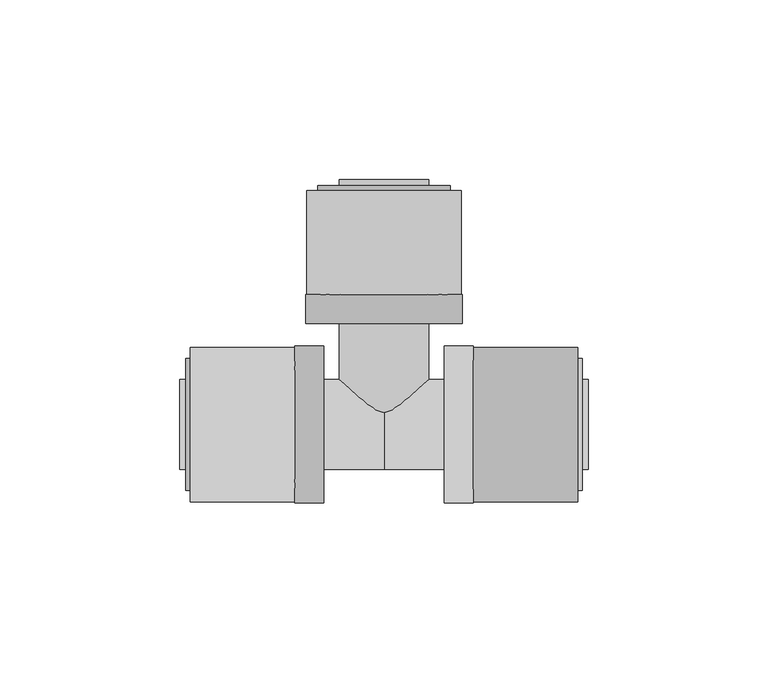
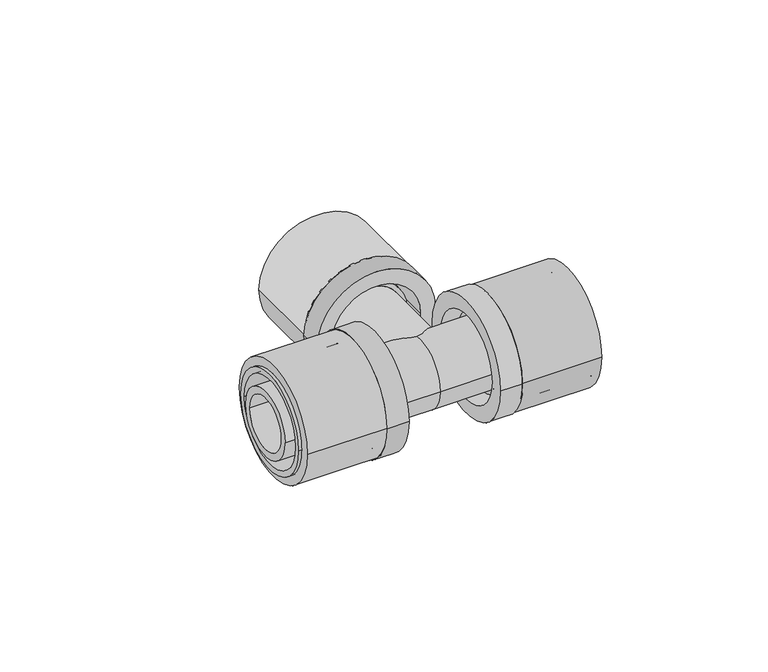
"""IFC4 building model written with IfcOpenShell, lengths in millimetres: pipe fitting geometry, FASTLOC_T-piece_EX+ : FSL T-Piece EX+ AT."""

from ifc_helpers import new_model, si_unit, point, frame, origin, origin_2d, place, context, project, spatial, polyline, circle_curve, trimmed, segment, composite_curve, outline, extrude, source, transform, mapped, element, save
from ifc_brep_helpers import plane_surface, cylinder_surface, revolved_surface, advanced_brep


def pipe_fitting_7921c085(model_context):
    return source(origin(), model_context, "Body", "SolidModel", [
        extrude(outline(composite_curve([segment(trimmed(circle_curve(origin_2d(), 21.5), [point((-21.5, 0.0))], [point((21.5, 0.0))], False, "CARTESIAN"), True, "CONTINUOUS"), segment(trimmed(circle_curve(origin_2d(), 21.5), [point((21.5, 0.0))], [point((-21.5, 0.0))], False, "CARTESIAN"), True, "CONTINUOUS")], self_intersect=False), holes=[composite_curve([segment(trimmed(circle_curve(origin_2d(), 16.85), [point((-16.85, 0.0))], [point((16.85, 0.0))], True, "CARTESIAN"), True, "CONTINUOUS"), segment(trimmed(circle_curve(origin_2d(), 16.85), [point((16.85, 0.0))], [point((-16.85, 0.0))], True, "CARTESIAN"), True, "CONTINUOUS")], self_intersect=False)]), frame((24.8, 0.0, 0.0), z_axis=(1.0, 0.0, 0.0), x_axis=(0.0, 1.0, 0.0)), (0.0, 0.0, 1.0), 29.0),
        advanced_brep(
        [(24.8, 21.8, 0.0), (24.8, -21.8, 0.0), (16.8, -21.8, 0.0), (16.8, 21.8, 0.0), (55.1, 18.35, 0.0), (55.1, -18.35, 0.0), (24.8, -18.35, 0.0), (24.8, 18.35, 0.0), (16.8, 16.2, 0.0), (16.8, -16.2, 0.0), (55.1, -16.2, 0.0), (55.1, 16.2, 0.0)],
        [
            (0, 1, circle_curve(frame((24.8, 0.0, 0.0), z_axis=(-1.0, 0.0, 0.0), x_axis=(0.0, -1.0, 0.0)), 21.8)),
            (1, 2),
            (2, 3, circle_curve(frame((16.8, 0.0, 0.0), z_axis=(1.0, 0.0, 0.0), x_axis=(0.0, -1.0, 0.0)), 21.8)),
            (3, 0),
            (4, 5, circle_curve(frame((55.1, 0.0, 0.0), z_axis=(-1.0, 0.0, 0.0), x_axis=(0.0, -1.0, 0.0)), 18.35)),
            (5, 6),
            (6, 7, circle_curve(frame((24.8, 0.0, 0.0), z_axis=(1.0, 0.0, 0.0), x_axis=(0.0, -1.0, 0.0)), 18.35)),
            (7, 4),
            (8, 9, circle_curve(frame((16.8, 0.0, 0.0), z_axis=(-1.0, 0.0, 0.0), x_axis=(0.0, -1.0, 0.0)), 16.2)),
            (9, 10),
            (10, 11, circle_curve(frame((55.1, 0.0, 0.0), z_axis=(1.0, 0.0, 0.0), x_axis=(0.0, -1.0, 0.0)), 16.2)),
            (11, 8),
            (1, 0, circle_curve(frame((24.8, 0.0, 0.0), z_axis=(-1.0, 0.0, 0.0), x_axis=(0.0, 1.0, 0.0)), 21.8)),
            (3, 2, circle_curve(frame((16.8, 0.0, 0.0), z_axis=(1.0, 0.0, 0.0), x_axis=(0.0, 1.0, 0.0)), 21.8)),
            (6, 7, circle_curve(frame((24.8, 0.0, 0.0), z_axis=(-1.0, 0.0, 0.0), x_axis=(0.0, 1.0, 0.0)), 18.35)),
            (5, 4, circle_curve(frame((55.1, 0.0, 0.0), z_axis=(-1.0, 0.0, 0.0), x_axis=(0.0, 1.0, 0.0)), 18.35)),
            (10, 11, circle_curve(frame((55.1, 0.0, 0.0), z_axis=(-1.0, 0.0, 0.0), x_axis=(0.0, 1.0, 0.0)), 16.2)),
            (9, 8, circle_curve(frame((16.8, 0.0, 0.0), z_axis=(-1.0, 0.0, 0.0), x_axis=(0.0, 1.0, 0.0)), 16.2)),
        ],
        [
            cylinder_surface(frame((16.8, 0.0, 0.0), z_axis=(1.0, 0.0, 0.0), x_axis=(0.0, -1.0, 0.0)), 21.8),
            cylinder_surface(frame((16.8, 0.0, 0.0), z_axis=(1.0, 0.0, 0.0), x_axis=(0.0, -1.0, 0.0)), 18.35),
            revolved_surface(polyline([(55.099999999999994, -16.2, 0.0), (16.8, -16.2, 0.0)]), (16.8, 0.0, 0.0), (1.0, 0.0, 0.0)),
            cylinder_surface(frame((16.8, 0.0, 0.0), z_axis=(1.0, 0.0, 0.0), x_axis=(0.0, 1.0, 0.0)), 21.8),
            plane_surface(frame((24.8, 0.0, 0.0), z_axis=(1.0, 0.0, 0.0), x_axis=(0.0, 1.0, 0.0))),
            cylinder_surface(frame((16.8, 0.0, 0.0), z_axis=(1.0, 0.0, 0.0), x_axis=(0.0, 1.0, 0.0)), 18.35),
            plane_surface(frame((55.1, 0.0, 0.0), z_axis=(1.0, 0.0, 0.0), x_axis=(0.0, 1.0, 0.0))),
            revolved_surface(polyline([(55.099999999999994, 16.2, 0.0), (16.8, 16.2, 0.0)]), (16.8, 0.0, 0.0), (1.0, 0.0, 0.0)),
            plane_surface(frame((16.8, 0.0, 0.0), z_axis=(-1.0, 0.0, 0.0), x_axis=(0.0, 1.0, 0.0))),
        ],
        [
            (0, [[1, 2, 3, 4]]),
            (1, [[5, 6, 7, 8]]),
            (2, [[9, 10, 11, 12]]),
            (3, [[13, -4, 14, -2]]),
            (4, [[-13, -1], [15, -7]]),
            (5, [[16, -8, -15, -6]]),
            (6, [[-16, -5], [17, -11]]),
            (7, [[18, -12, -17, -10]]),
            (8, [[-14, -3], [-18, -9]]),
        ],
    ),
        extrude(outline(composite_curve([segment(trimmed(circle_curve(origin_2d(), 21.5), [point((21.5, 0.0))], [point((-21.5, 0.0))], False, "CARTESIAN"), True, "CONTINUOUS"), segment(trimmed(circle_curve(origin_2d(), 21.5), [point((-21.5, 0.0))], [point((21.5, 0.0))], False, "CARTESIAN"), True, "CONTINUOUS")], self_intersect=False), holes=[composite_curve([segment(trimmed(circle_curve(origin_2d(), 16.85), [point((16.85, 0.0))], [point((-16.85, 0.0))], True, "CARTESIAN"), True, "CONTINUOUS"), segment(trimmed(circle_curve(origin_2d(), 16.85), [point((-16.85, 0.0))], [point((16.85, 0.0))], True, "CARTESIAN"), True, "CONTINUOUS")], self_intersect=False)]), frame((-53.8, 0.0, 0.0), z_axis=(1.0, 0.0, 0.0), x_axis=(0.0, 1.0, 0.0)), (0.0, 0.0, 1.0), 29.0),
        advanced_brep(
        [(-24.8, -21.8, 0.0), (-24.8, 21.8, 0.0), (-16.8, 21.8, 0.0), (-16.8, -21.8, 0.0), (-55.1, -18.35, 0.0), (-55.1, 18.35, 0.0), (-24.8, 18.35, 0.0), (-24.8, -18.35, 0.0), (-16.8, -16.2, 0.0), (-16.8, 16.2, 0.0), (-55.1, 16.2, 0.0), (-55.1, -16.2, 0.0)],
        [
            (0, 1, circle_curve(frame((-24.8, 0.0, 0.0), z_axis=(1.0, 0.0, 0.0), x_axis=(0.0, 1.0, 0.0)), 21.8)),
            (1, 2),
            (2, 3, circle_curve(frame((-16.8, 0.0, 0.0), z_axis=(-1.0, 0.0, 0.0), x_axis=(0.0, 1.0, 0.0)), 21.8)),
            (3, 0),
            (4, 5, circle_curve(frame((-55.1, 0.0, 0.0), z_axis=(1.0, 0.0, 0.0), x_axis=(0.0, 1.0, 0.0)), 18.35)),
            (5, 6),
            (6, 7, circle_curve(frame((-24.8, 0.0, 0.0), z_axis=(-1.0, 0.0, 0.0), x_axis=(0.0, 1.0, 0.0)), 18.35)),
            (7, 4),
            (8, 9, circle_curve(frame((-16.8, 0.0, 0.0), z_axis=(1.0, 0.0, 0.0), x_axis=(0.0, 1.0, 0.0)), 16.2)),
            (9, 10),
            (10, 11, circle_curve(frame((-55.1, 0.0, 0.0), z_axis=(-1.0, 0.0, 0.0), x_axis=(0.0, 1.0, 0.0)), 16.2)),
            (11, 8),
            (1, 0, circle_curve(frame((-24.8, 0.0, 0.0), z_axis=(1.0, 0.0, 0.0), x_axis=(0.0, -1.0, 0.0)), 21.8)),
            (3, 2, circle_curve(frame((-16.8, 0.0, 0.0), z_axis=(-1.0, 0.0, 0.0), x_axis=(0.0, -1.0, 0.0)), 21.8)),
            (6, 7, circle_curve(frame((-24.8, 0.0, 0.0), z_axis=(1.0, 0.0, 0.0), x_axis=(0.0, -1.0, 0.0)), 18.35)),
            (5, 4, circle_curve(frame((-55.1, 0.0, 0.0), z_axis=(1.0, 0.0, 0.0), x_axis=(0.0, -1.0, 0.0)), 18.35)),
            (10, 11, circle_curve(frame((-55.1, 0.0, 0.0), z_axis=(1.0, 0.0, 0.0), x_axis=(0.0, -1.0, 0.0)), 16.2)),
            (9, 8, circle_curve(frame((-16.8, 0.0, 0.0), z_axis=(1.0, 0.0, 0.0), x_axis=(0.0, -1.0, 0.0)), 16.2)),
        ],
        [
            cylinder_surface(frame((-16.8, 0.0, 0.0), z_axis=(-1.0, 0.0, 0.0), x_axis=(0.0, 1.0, 0.0)), 21.8),
            cylinder_surface(frame((-16.8, 0.0, 0.0), z_axis=(-1.0, 0.0, 0.0), x_axis=(0.0, 1.0, 0.0)), 18.35),
            revolved_surface(polyline([(-55.099999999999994, 16.2, 0.0), (-16.8, 16.2, 0.0)]), (-16.8, 0.0, 0.0), (-1.0, 0.0, 0.0)),
            cylinder_surface(frame((-16.8, 0.0, 0.0), z_axis=(-1.0, 0.0, 0.0), x_axis=(0.0, -1.0, 0.0)), 21.8),
            plane_surface(frame((-24.8, 0.0, 0.0), z_axis=(-1.0, 0.0, 0.0), x_axis=(0.0, -1.0, 0.0))),
            cylinder_surface(frame((-16.8, 0.0, 0.0), z_axis=(-1.0, 0.0, 0.0), x_axis=(0.0, -1.0, 0.0)), 18.35),
            plane_surface(frame((-55.1, 0.0, 0.0), z_axis=(-1.0, 0.0, 0.0), x_axis=(0.0, -1.0, 0.0))),
            revolved_surface(polyline([(-55.099999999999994, -16.2, 0.0), (-16.8, -16.2, 0.0)]), (-16.8, 0.0, 0.0), (-1.0, 0.0, 0.0)),
            plane_surface(frame((-16.8, 0.0, 0.0), z_axis=(1.0, 0.0, 0.0), x_axis=(0.0, -1.0, 0.0))),
        ],
        [
            (0, [[1, 2, 3, 4]]),
            (1, [[5, 6, 7, 8]]),
            (2, [[9, 10, 11, 12]]),
            (3, [[13, -4, 14, -2]]),
            (4, [[-13, -1], [15, -7]]),
            (5, [[16, -8, -15, -6]]),
            (6, [[-16, -5], [17, -11]]),
            (7, [[18, -12, -17, -10]]),
            (8, [[-14, -3], [-18, -9]]),
        ],
    ),
        extrude(outline(composite_curve([segment(trimmed(circle_curve(origin_2d(), 21.5), [point((0.0, 21.5))], [point((0.0, -21.5))], False, "CARTESIAN"), True, "CONTINUOUS"), segment(trimmed(circle_curve(origin_2d(), 21.5), [point((0.0, -21.5))], [point((0.0, 21.5))], False, "CARTESIAN"), True, "CONTINUOUS")], self_intersect=False), holes=[composite_curve([segment(trimmed(circle_curve(origin_2d(), 16.85), [point((0.0, 16.85))], [point((0.0, -16.85))], True, "CARTESIAN"), True, "CONTINUOUS"), segment(trimmed(circle_curve(origin_2d(), 16.85), [point((0.0, -16.85))], [point((0.0, 16.85))], True, "CARTESIAN"), True, "CONTINUOUS")], self_intersect=False)]), frame((0.0, 36.1, 0.0), z_axis=(0.0, 1.0, 0.0), x_axis=(0.0, 0.0, 1.0)), (0.0, 0.0, 1.0), 29.0),
        advanced_brep(
        [(-21.8, 36.1, 0.0), (21.8, 36.1, 0.0), (21.8, 28.1, 0.0), (-21.8, 28.1, 0.0), (-18.35, 66.4, 0.0), (18.35, 66.4, 0.0), (18.35, 36.1, 0.0), (-18.35, 36.1, 0.0), (-16.2, 28.1, 0.0), (16.2, 28.1, 0.0), (16.2, 66.4, 0.0), (-16.2, 66.4, 0.0)],
        [
            (0, 1, circle_curve(frame((0.0, 36.1, 0.0), z_axis=(0.0, -1.0, 0.0), x_axis=(1.0, 0.0, 0.0)), 21.8)),
            (1, 2),
            (2, 3, circle_curve(frame((0.0, 28.1, 0.0), z_axis=(0.0, 1.0, 0.0), x_axis=(1.0, 0.0, 0.0)), 21.8)),
            (3, 0),
            (4, 5, circle_curve(frame((0.0, 66.4, 0.0), z_axis=(0.0, -1.0, 0.0), x_axis=(1.0, 0.0, 0.0)), 18.35)),
            (5, 6),
            (6, 7, circle_curve(frame((0.0, 36.1, 0.0), z_axis=(0.0, 1.0, 0.0), x_axis=(1.0, 0.0, 0.0)), 18.35)),
            (7, 4),
            (8, 9, circle_curve(frame((0.0, 28.1, 0.0), z_axis=(0.0, -1.0, 0.0), x_axis=(1.0, 0.0, 0.0)), 16.2)),
            (9, 10),
            (10, 11, circle_curve(frame((0.0, 66.4, 0.0), z_axis=(0.0, 1.0, 0.0), x_axis=(1.0, 0.0, 0.0)), 16.2)),
            (11, 8),
            (1, 0, circle_curve(frame((0.0, 36.1, 0.0), z_axis=(0.0, -1.0, 0.0), x_axis=(-1.0, 0.0, 0.0)), 21.8)),
            (3, 2, circle_curve(frame((0.0, 28.1, 0.0), z_axis=(0.0, 1.0, 0.0), x_axis=(-1.0, 0.0, 0.0)), 21.8)),
            (6, 7, circle_curve(frame((0.0, 36.1, 0.0), z_axis=(0.0, -1.0, 0.0), x_axis=(-1.0, 0.0, 0.0)), 18.35)),
            (5, 4, circle_curve(frame((0.0, 66.4, 0.0), z_axis=(0.0, -1.0, 0.0), x_axis=(-1.0, 0.0, 0.0)), 18.35)),
            (10, 11, circle_curve(frame((0.0, 66.4, 0.0), z_axis=(0.0, -1.0, 0.0), x_axis=(-1.0, 0.0, 0.0)), 16.2)),
            (9, 8, circle_curve(frame((0.0, 28.1, 0.0), z_axis=(0.0, -1.0, 0.0), x_axis=(-1.0, 0.0, 0.0)), 16.2)),
        ],
        [
            cylinder_surface(frame((0.0, 28.1, 0.0), z_axis=(0.0, 1.0, 0.0), x_axis=(1.0, 0.0, 0.0)), 21.8),
            cylinder_surface(frame((0.0, 28.1, 0.0), z_axis=(0.0, 1.0, 0.0), x_axis=(1.0, 0.0, 0.0)), 18.35),
            revolved_surface(polyline([(16.2, 66.4, 0.0), (16.2, 28.1, 0.0)]), (0.0, 28.1, 0.0), (0.0, 1.0, 0.0)),
            cylinder_surface(frame((0.0, 28.1, 0.0), z_axis=(0.0, 1.0, 0.0), x_axis=(-1.0, 0.0, 0.0)), 21.8),
            plane_surface(frame((0.0, 36.1, 0.0), z_axis=(0.0, 1.0, 0.0), x_axis=(-1.0, 0.0, 0.0))),
            cylinder_surface(frame((0.0, 28.1, 0.0), z_axis=(0.0, 1.0, 0.0), x_axis=(-1.0, 0.0, 0.0)), 18.35),
            plane_surface(frame((0.0, 66.4, 0.0), z_axis=(0.0, 1.0, 0.0), x_axis=(-1.0, 0.0, 0.0))),
            revolved_surface(polyline([(-16.2, 66.4, 0.0), (-16.2, 28.1, 0.0)]), (0.0, 28.1, 0.0), (0.0, 1.0, 0.0)),
            plane_surface(frame((0.0, 28.1, 0.0), z_axis=(0.0, -1.0, 0.0), x_axis=(-1.0, 0.0, 0.0))),
        ],
        [
            (0, [[1, 2, 3, 4]]),
            (1, [[5, 6, 7, 8]]),
            (2, [[9, 10, 11, 12]]),
            (3, [[13, -4, 14, -2]]),
            (4, [[-13, -1], [15, -7]]),
            (5, [[16, -8, -15, -6]]),
            (6, [[-16, -5], [17, -11]]),
            (7, [[18, -12, -17, -10]]),
            (8, [[-14, -3], [-18, -9]]),
        ],
    ),
        advanced_brep(
        [(0.0, 12.5, 0.0), (0.0, -12.5, 0.0), (-21.8, -12.5, 0.0), (-21.8, 12.5, 0.0), (21.8, 12.5, 0.0), (21.8, -12.5, 0.0), (24.8, 14.1, 0.0), (24.8, -14.1, 0.0), (21.8, -14.1, 0.0), (21.8, 14.1, 0.0), (56.75, 12.5, 0.0), (56.75, -12.5, 0.0), (24.8, -12.5, 0.0), (24.8, 12.5, 0.0), (-56.75, 9.85, 0.0), (-56.75, -9.85, 0.0), (56.75, -9.85, 0.0), (56.75, 9.85, 0.0), (-24.8, 12.5, 0.0), (-24.8, -12.5, 0.0), (-56.75, -12.5, 0.0), (-56.75, 12.5, 0.0), (-21.8, 14.1, 0.0), (-21.8, -14.1, 0.0), (-24.8, -14.1, 0.0), (-24.8, 14.1, 0.0)],
        [
            (0, 1, circle_curve(frame((0.0, 0.0, 0.0), z_axis=(-1.0, 0.0, 0.0), x_axis=(0.0, -1.0, 0.0)), 12.5)),
            (1, 2),
            (2, 3, circle_curve(frame((-21.8, 0.0, 0.0), z_axis=(1.0, 0.0, 0.0), x_axis=(0.0, -1.0, 0.0)), 12.5)),
            (3, 0),
            (4, 5, circle_curve(frame((21.8, 0.0, 0.0), z_axis=(-1.0, 0.0, 0.0), x_axis=(0.0, -1.0, 0.0)), 12.5)),
            (5, 1),
            (0, 4),
            (6, 7, circle_curve(frame((24.8, 0.0, 0.0), z_axis=(-1.0, 0.0, 0.0), x_axis=(0.0, -1.0, 0.0)), 14.1)),
            (7, 8),
            (8, 9, circle_curve(frame((21.8, 0.0, 0.0), z_axis=(1.0, 0.0, 0.0), x_axis=(0.0, -1.0, 0.0)), 14.1)),
            (9, 6),
            (10, 11, circle_curve(frame((56.75, 0.0, 0.0), z_axis=(-1.0, 0.0, 0.0), x_axis=(0.0, -1.0, 0.0)), 12.5)),
            (11, 12),
            (12, 13, circle_curve(frame((24.8, 0.0, 0.0), z_axis=(1.0, 0.0, 0.0), x_axis=(0.0, -1.0, 0.0)), 12.5)),
            (13, 10),
            (14, 15, circle_curve(frame((-56.75, 0.0, 0.0), z_axis=(-1.0, 0.0, 0.0), x_axis=(0.0, -1.0, 0.0)), 9.85)),
            (15, 16),
            (16, 17, circle_curve(frame((56.75, 0.0, 0.0), z_axis=(1.0, 0.0, 0.0), x_axis=(0.0, -1.0, 0.0)), 9.85)),
            (17, 14),
            (18, 19, circle_curve(frame((-24.8, 0.0, 0.0), z_axis=(-1.0, 0.0, 0.0), x_axis=(0.0, -1.0, 0.0)), 12.5)),
            (19, 20),
            (20, 21, circle_curve(frame((-56.75, 0.0, 0.0), z_axis=(1.0, 0.0, 0.0), x_axis=(0.0, -1.0, 0.0)), 12.5)),
            (21, 18),
            (22, 23, circle_curve(frame((-21.8, 0.0, 0.0), z_axis=(-1.0, 0.0, 0.0), x_axis=(0.0, -1.0, 0.0)), 14.1)),
            (23, 24),
            (24, 25, circle_curve(frame((-24.8, 0.0, 0.0), z_axis=(1.0, 0.0, 0.0), x_axis=(0.0, -1.0, 0.0)), 14.1)),
            (25, 22),
            (22, 23, circle_curve(frame((-21.8, 0.0, 0.0), z_axis=(1.0, 0.0, 0.0), x_axis=(0.0, 1.0, 0.0)), 14.1)),
            (2, 3, circle_curve(frame((-21.8, 0.0, 0.0), z_axis=(-1.0, 0.0, 0.0), x_axis=(0.0, 1.0, 0.0)), 12.5)),
            (1, 0, circle_curve(frame((0.0, 0.0, 0.0), z_axis=(-1.0, 0.0, 0.0), x_axis=(0.0, 1.0, 0.0)), 12.5)),
            (5, 4, circle_curve(frame((21.8, 0.0, 0.0), z_axis=(-1.0, 0.0, 0.0), x_axis=(0.0, 1.0, 0.0)), 12.5)),
            (8, 9, circle_curve(frame((21.8, 0.0, 0.0), z_axis=(-1.0, 0.0, 0.0), x_axis=(0.0, 1.0, 0.0)), 14.1)),
            (7, 6, circle_curve(frame((24.8, 0.0, 0.0), z_axis=(-1.0, 0.0, 0.0), x_axis=(0.0, 1.0, 0.0)), 14.1)),
            (12, 13, circle_curve(frame((24.8, 0.0, 0.0), z_axis=(-1.0, 0.0, 0.0), x_axis=(0.0, 1.0, 0.0)), 12.5)),
            (11, 10, circle_curve(frame((56.75, 0.0, 0.0), z_axis=(-1.0, 0.0, 0.0), x_axis=(0.0, 1.0, 0.0)), 12.5)),
            (16, 17, circle_curve(frame((56.75, 0.0, 0.0), z_axis=(-1.0, 0.0, 0.0), x_axis=(0.0, 1.0, 0.0)), 9.85)),
            (15, 14, circle_curve(frame((-56.75, 0.0, 0.0), z_axis=(-1.0, 0.0, 0.0), x_axis=(0.0, 1.0, 0.0)), 9.85)),
            (20, 21, circle_curve(frame((-56.75, 0.0, 0.0), z_axis=(-1.0, 0.0, 0.0), x_axis=(0.0, 1.0, 0.0)), 12.5)),
            (19, 18, circle_curve(frame((-24.8, 0.0, 0.0), z_axis=(-1.0, 0.0, 0.0), x_axis=(0.0, 1.0, 0.0)), 12.5)),
            (24, 25, circle_curve(frame((-24.8, 0.0, 0.0), z_axis=(-1.0, 0.0, 0.0), x_axis=(0.0, 1.0, 0.0)), 14.1)),
        ],
        [
            cylinder_surface(frame((0.0, 0.0, 0.0), z_axis=(1.0, 0.0, 0.0), x_axis=(0.0, -1.0, 0.0)), 12.5),
            cylinder_surface(frame((0.0, 0.0, 0.0), z_axis=(1.0, 0.0, 0.0), x_axis=(0.0, -1.0, 0.0)), 14.1),
            revolved_surface(polyline([(56.75, -9.85, 0.0), (-56.75, -9.85, 0.0)]), (0.0, 0.0, 0.0), (1.0, 0.0, 0.0)),
            plane_surface(frame((-21.8, 0.0, 0.0), z_axis=(1.0, 0.0, 0.0), x_axis=(0.0, 1.0, 0.0))),
            cylinder_surface(frame((0.0, 0.0, 0.0), z_axis=(1.0, 0.0, 0.0), x_axis=(0.0, 1.0, 0.0)), 12.5),
            plane_surface(frame((21.8, 0.0, 0.0), z_axis=(-1.0, 0.0, 0.0), x_axis=(0.0, 1.0, 0.0))),
            cylinder_surface(frame((0.0, 0.0, 0.0), z_axis=(1.0, 0.0, 0.0), x_axis=(0.0, 1.0, 0.0)), 14.1),
            plane_surface(frame((24.8, 0.0, 0.0), z_axis=(1.0, 0.0, 0.0), x_axis=(0.0, 1.0, 0.0))),
            plane_surface(frame((56.75, 0.0, 0.0), z_axis=(1.0, 0.0, 0.0), x_axis=(0.0, 1.0, 0.0))),
            revolved_surface(polyline([(56.75, 9.85, 0.0), (-56.75, 9.85, 0.0)]), (0.0, 0.0, 0.0), (1.0, 0.0, 0.0)),
            plane_surface(frame((-56.75, 0.0, 0.0), z_axis=(-1.0, 0.0, 0.0), x_axis=(0.0, 1.0, 0.0))),
            plane_surface(frame((-24.8, 0.0, 0.0), z_axis=(-1.0, 0.0, 0.0), x_axis=(0.0, 1.0, 0.0))),
        ],
        [
            (0, [[1, 2, 3, 4]]),
            (0, [[5, 6, -1, 7]]),
            (1, [[8, 9, 10, 11]]),
            (0, [[12, 13, 14, 15]]),
            (2, [[16, 17, 18, 19]]),
            (0, [[20, 21, 22, 23]]),
            (1, [[24, 25, 26, 27]]),
            (3, [[28, -24], [29, -3]]),
            (4, [[30, -4, -29, -2]]),
            (4, [[31, -7, -30, -6]]),
            (5, [[32, -10], [-31, -5]]),
            (6, [[33, -11, -32, -9]]),
            (7, [[-33, -8], [34, -14]]),
            (4, [[35, -15, -34, -13]]),
            (8, [[-35, -12], [36, -18]]),
            (9, [[37, -19, -36, -17]]),
            (10, [[38, -22], [-37, -16]]),
            (4, [[39, -23, -38, -21]]),
            (11, [[40, -26], [-39, -20]]),
            (6, [[-28, -27, -40, -25]]),
        ],
    ),
        advanced_brep(
        [(9.85, 68.1, 0.0), (-9.85, 68.1, 0.0), (-9.85, 0.0, 0.0), (9.85, 0.0, 0.0), (12.5, 0.0, 0.0), (-12.5, 0.0, 0.0), (-12.5, 33.1, 0.0), (12.5, 33.1, 0.0), (14.1, 33.1, 0.0), (-14.1, 33.1, 0.0), (-14.1, 36.1, 0.0), (14.1, 36.1, 0.0), (12.5, 36.1, 0.0), (-12.5, 36.1, 0.0), (-12.5, 68.1, 0.0), (12.5, 68.1, 0.0)],
        [
            (0, 1, circle_curve(frame((0.0, 68.1, 0.0), z_axis=(0.0, 1.0, 0.0), x_axis=(-1.0, 0.0, 0.0)), 9.85)),
            (1, 2),
            (2, 3, circle_curve(frame((0.0, 0.0, 0.0), z_axis=(0.0, -1.0, 0.0), x_axis=(-1.0, 0.0, 0.0)), 9.85)),
            (3, 0),
            (4, 5, circle_curve(frame((0.0, 0.0, 0.0), z_axis=(0.0, 1.0, 0.0), x_axis=(-1.0, 0.0, 0.0)), 12.5)),
            (5, 6),
            (6, 7, circle_curve(frame((0.0, 33.1, 0.0), z_axis=(0.0, -1.0, 0.0), x_axis=(-1.0, 0.0, 0.0)), 12.5)),
            (7, 4),
            (8, 9, circle_curve(frame((0.0, 33.1, 0.0), z_axis=(0.0, 1.0, 0.0), x_axis=(-1.0, 0.0, 0.0)), 14.1)),
            (9, 10),
            (10, 11, circle_curve(frame((0.0, 36.1, 0.0), z_axis=(0.0, -1.0, 0.0), x_axis=(-1.0, 0.0, 0.0)), 14.1)),
            (11, 8),
            (12, 13, circle_curve(frame((0.0, 36.1, 0.0), z_axis=(0.0, 1.0, 0.0), x_axis=(-1.0, 0.0, 0.0)), 12.5)),
            (13, 14),
            (14, 15, circle_curve(frame((0.0, 68.1, 0.0), z_axis=(0.0, -1.0, 0.0), x_axis=(-1.0, 0.0, 0.0)), 12.5)),
            (15, 12),
            (1, 0, circle_curve(frame((0.0, 68.1, 0.0), z_axis=(0.0, 1.0, 0.0), x_axis=(1.0, 0.0, 0.0)), 9.85)),
            (3, 2, circle_curve(frame((0.0, 0.0, 0.0), z_axis=(0.0, -1.0, 0.0), x_axis=(1.0, 0.0, 0.0)), 9.85)),
            (4, 5, circle_curve(frame((0.0, 0.0, 0.0), z_axis=(0.0, -1.0, 0.0), x_axis=(1.0, 0.0, 0.0)), 12.5)),
            (7, 6, circle_curve(frame((0.0, 33.1, 0.0), z_axis=(0.0, -1.0, 0.0), x_axis=(1.0, 0.0, 0.0)), 12.5)),
            (8, 9, circle_curve(frame((0.0, 33.1, 0.0), z_axis=(0.0, -1.0, 0.0), x_axis=(1.0, 0.0, 0.0)), 14.1)),
            (11, 10, circle_curve(frame((0.0, 36.1, 0.0), z_axis=(0.0, -1.0, 0.0), x_axis=(1.0, 0.0, 0.0)), 14.1)),
            (12, 13, circle_curve(frame((0.0, 36.1, 0.0), z_axis=(0.0, -1.0, 0.0), x_axis=(1.0, 0.0, 0.0)), 12.5)),
            (15, 14, circle_curve(frame((0.0, 68.1, 0.0), z_axis=(0.0, -1.0, 0.0), x_axis=(1.0, 0.0, 0.0)), 12.5)),
        ],
        [
            revolved_surface(polyline([(-9.85, 0.0, 0.0), (-9.85, 68.1, 0.0)]), (0.0, 0.0, 0.0), (0.0, -1.0, 0.0)),
            cylinder_surface(frame((0.0, 0.0, 0.0), z_axis=(0.0, -1.0, 0.0), x_axis=(-1.0, 0.0, 0.0)), 12.5),
            cylinder_surface(frame((0.0, 0.0, 0.0), z_axis=(0.0, -1.0, 0.0), x_axis=(-1.0, 0.0, 0.0)), 14.1),
            revolved_surface(polyline([(9.85, 0.0, 0.0), (9.85, 68.1, 0.0)]), (0.0, 0.0, 0.0), (0.0, -1.0, 0.0)),
            plane_surface(frame((0.0, 0.0, 0.0), z_axis=(0.0, -1.0, 0.0), x_axis=(1.0, 0.0, 0.0))),
            cylinder_surface(frame((0.0, 0.0, 0.0), z_axis=(0.0, -1.0, 0.0), x_axis=(1.0, 0.0, 0.0)), 12.5),
            plane_surface(frame((0.0, 33.1, 0.0), z_axis=(0.0, -1.0, 0.0), x_axis=(1.0, 0.0, 0.0))),
            cylinder_surface(frame((0.0, 0.0, 0.0), z_axis=(0.0, -1.0, 0.0), x_axis=(1.0, 0.0, 0.0)), 14.1),
            plane_surface(frame((0.0, 36.1, 0.0), z_axis=(0.0, 1.0, 0.0), x_axis=(1.0, 0.0, 0.0))),
            plane_surface(frame((0.0, 68.1, 0.0), z_axis=(0.0, 1.0, 0.0), x_axis=(1.0, 0.0, 0.0))),
        ],
        [
            (0, [[1, 2, 3, 4]]),
            (1, [[5, 6, 7, 8]]),
            (2, [[9, 10, 11, 12]]),
            (1, [[13, 14, 15, 16]]),
            (3, [[17, -4, 18, -2]]),
            (4, [[19, -5], [-18, -3]]),
            (5, [[-19, -8, 20, -6]]),
            (6, [[21, -9], [-20, -7]]),
            (7, [[-21, -12, 22, -10]]),
            (8, [[-22, -11], [23, -13]]),
            (5, [[-23, -16, 24, -14]]),
            (9, [[-24, -15], [-17, -1]]),
        ],
    ),
    ])


if __name__ == "__main__":
    model = new_model("IFC4")
    model_context = context("Model", 3, world=origin())
    ifc_project = project(units=[si_unit("LENGTHUNIT", "METRE", prefix="MILLI")], contexts=[model_context])
    site = spatial("IfcSite", under=ifc_project)
    building = spatial("IfcBuilding", under=site)
    placement = place(None, origin())
    pipe_fitting_shape = pipe_fitting_7921c085(model_context)
    element("IfcPipeFitting", 1, ObjectType="FASTLOC_T-piece_EX+ : FSL T-Piece EX+ AT", at=placement, inside=building, context=model_context, shape_type="MappedRepresentation", body=[
        mapped(pipe_fitting_shape, transform((0.0, 0.0, 0.0), x_axis=(1.0, 0.0, 0.0), y_axis=(0.0, 1.0, 0.0), z_axis=(0.0, 0.0, 1.0))),
    ])
    save(model, "model.ifc")
